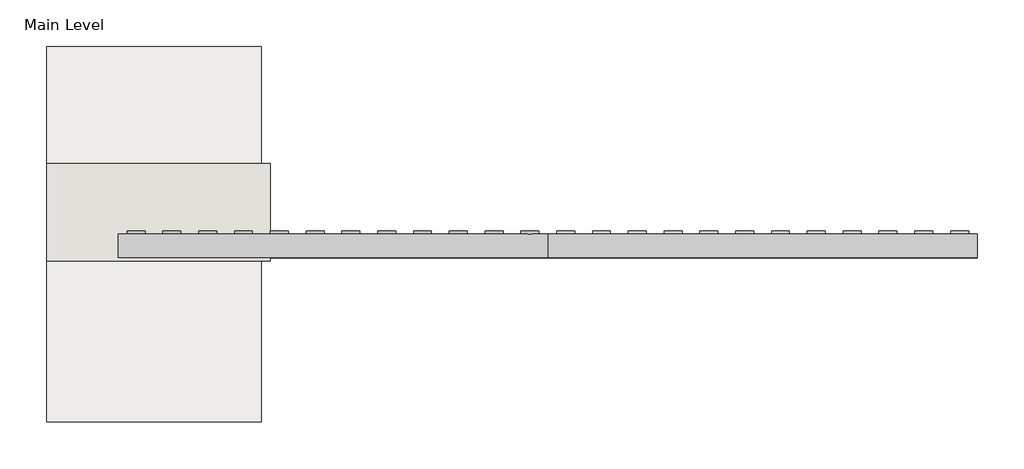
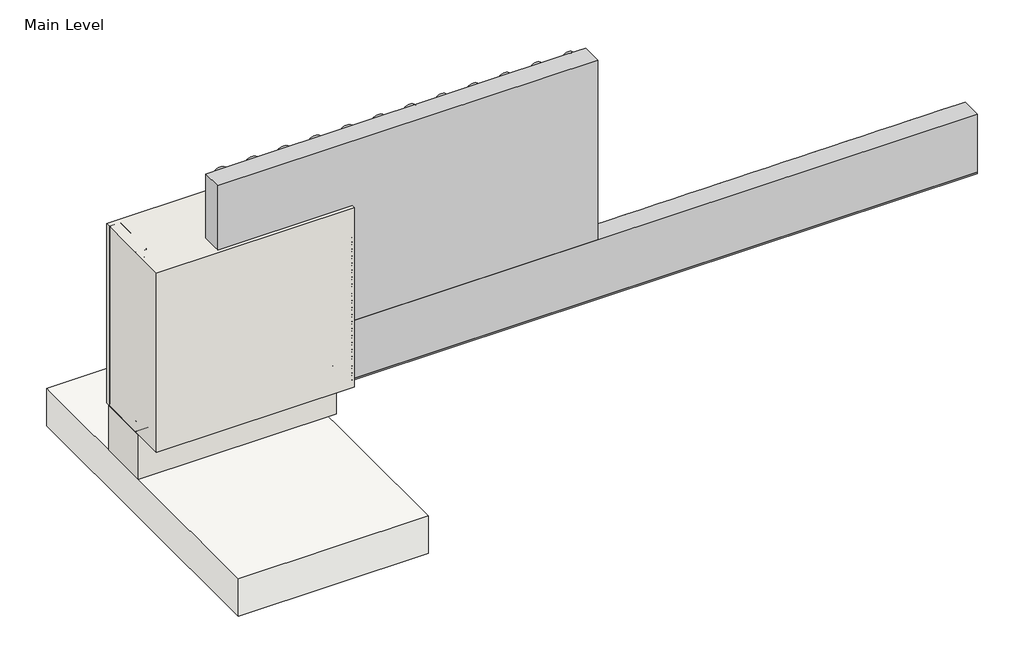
# One storey, incomplete: 18 proxies, 2 walls, 1 slab.
"""IFC4 building model written with IfcOpenShell, lengths in millimetres."""

from ifc_helpers import new_model, si_unit, frame, origin, origin_with_axes, place, context, project, spatial, polyline, outline, extrude, transform, mapped, element, save
from components import generic_models_31547c53, generic_models_0bbfdc8f, generic_models_1e1ad44f, generic_models_7dd17a53, generic_models_441de798, generic_models_9d0e7a2a, generic_models_a6b5edb7, generic_models_03ec6e0e, proxy_50213ae0, proxy_cc65e3d2, wood_blocking_45ac4bf3

model = new_model("IFC4")

# Units and contexts
model_context = context("Model", 3, world=origin())
ifc_project = project(units=[si_unit("LENGTHUNIT", "METRE", prefix="MILLI")], contexts=[model_context])

# Site, building, storey
site = spatial("IfcSite", under=ifc_project)
building = spatial("IfcBuilding", under=site)
storey = spatial("IfcBuildingStorey", under=building, Name="Main Level", Elevation=0.0)

# Proxies
placement = place(None, origin())
generic_models_shape = generic_models_31547c53(model_context)
element("IfcBuildingElementProxy", 1, Name="Durabond Generic Model Sealant Vent : Durabond Generic Model Sealant Vent", ObjectType="Durabond Generic Model Sealant Vent : Durabond Generic Model Sealant Vent", at=placement, inside=storey, context=model_context, shape_type="MappedRepresentation", body=[
    mapped(generic_models_shape, transform((26865.4101773, 546.8432813, 8.5594788), x_axis=(1.0, 0.0, 0.0), y_axis=(0.0, 0.08715574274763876, -0.9961946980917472), z_axis=(0.0, 0.9961946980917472, 0.08715574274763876))),
])
generic_models_2_shape = generic_models_0bbfdc8f(model_context)
generic_models_3_shape = generic_models_1e1ad44f(model_context)
generic_models_4_shape = generic_models_7dd17a53(model_context)
generic_models_5_shape = generic_models_441de798(model_context)
element("IfcBuildingElementProxy", 2, Name="CRAi Generic Model Mesh Piece Face Based : CRAi Generic Model Mesh Piece Face Based", ObjectType="CRAi Generic Model Mesh Piece Face Based : CRAi Generic Model Mesh Piece Face Based", at=placement, inside=storey, context=model_context, shape_type="MappedRepresentation", body=[
    mapped(generic_models_2_shape, transform((26933.6726773, 541.9066297, 261.6963215), x_axis=(-1.0, 0.0, 0.0), y_axis=(0.0, 0.0, -1.0), z_axis=(0.0, -1.0, 0.0))),
    mapped(generic_models_3_shape, transform((26933.6726773, 541.9066297, 261.6963215), x_axis=(-1.0, 0.0, 0.0), y_axis=(0.0, 0.0, -1.0), z_axis=(0.0, -1.0, 0.0))),
    mapped(generic_models_4_shape, transform((26933.6726773, 541.9066297, 261.6963215), x_axis=(-1.0, 0.0, 0.0), y_axis=(0.0, 0.0, -1.0), z_axis=(0.0, -1.0, 0.0))),
    mapped(generic_models_5_shape, transform((26933.6726773, 541.9066297, 261.6963215), x_axis=(-1.0, 0.0, 0.0), y_axis=(0.0, 0.0, -1.0), z_axis=(0.0, -1.0, 0.0))),
])
generic_models_6_shape = generic_models_9d0e7a2a(model_context)
element("IfcBuildingElementProxy", 3, Name="CRAi Generic Model Metal Stud Array : CRAi Generic Model Metal Stud Array", ObjectType="CRAi Generic Model Metal Stud Array : CRAi Generic Model Metal Stud Array", at=placement, inside=storey, context=model_context, shape_type="MappedRepresentation", body=[
    mapped(generic_models_6_shape, transform((26666.9726773, 726.0566297, 6.35), x_axis=(-1.0, 0.0, 0.0), y_axis=(0.0, -1.0, 0.0), z_axis=(0.0, 0.0, 1.0))),
])
generic_models_7_shape = generic_models_a6b5edb7(model_context)
element("IfcBuildingElementProxy", 4, Name="Durabond Generic Model Insulation Adhesive Flat : Durabond Generic Model Insulation Adhesive Flat", ObjectType="Durabond Generic Model Insulation Adhesive Flat : Durabond Generic Model Insulation Adhesive Flat", at=placement, inside=storey, context=model_context, shape_type="MappedRepresentation", body=[
    mapped(generic_models_7_shape, transform((26717.7726773, 627.6316297, 88.9), x_axis=(1.0, 0.0, 0.0), y_axis=(0.0, 1.0, 0.0), z_axis=(0.0, 0.0, 1.0))),
])
element("IfcBuildingElementProxy", 5, Name="Durabond Generic Model Insulation Adhesive Flat : Durabond Generic Model Insulation Adhesive Flat", ObjectType="Durabond Generic Model Insulation Adhesive Flat : Durabond Generic Model Insulation Adhesive Flat", at=placement, inside=storey, context=model_context, shape_type="MappedRepresentation", body=[
    mapped(generic_models_7_shape, transform((26819.3726773, 627.6316297, 88.9), x_axis=(1.0, 0.0, 0.0), y_axis=(0.0, 1.0, 0.0), z_axis=(0.0, 0.0, 1.0))),
])
element("IfcBuildingElementProxy", 6, Name="Durabond Generic Model Insulation Adhesive Flat : Durabond Generic Model Insulation Adhesive Flat", ObjectType="Durabond Generic Model Insulation Adhesive Flat : Durabond Generic Model Insulation Adhesive Flat", at=placement, inside=storey, context=model_context, shape_type="MappedRepresentation", body=[
    mapped(generic_models_7_shape, transform((26920.9726773, 627.6316297, 88.9), x_axis=(1.0, 0.0, 0.0), y_axis=(0.0, 1.0, 0.0), z_axis=(0.0, 0.0, 1.0))),
])
element("IfcBuildingElementProxy", 7, Name="Durabond Generic Model Insulation Adhesive Flat : Durabond Generic Model Insulation Adhesive Flat", ObjectType="Durabond Generic Model Insulation Adhesive Flat : Durabond Generic Model Insulation Adhesive Flat", at=placement, inside=storey, context=model_context, shape_type="MappedRepresentation", body=[
    mapped(generic_models_7_shape, transform((27022.5726773, 627.6316297, 88.9), x_axis=(1.0, 0.0, 0.0), y_axis=(0.0, 1.0, 0.0), z_axis=(0.0, 0.0, 1.0))),
])
generic_models_8_shape = generic_models_03ec6e0e(model_context)
element("IfcBuildingElementProxy", 8, Name="CRAi Generic Model Drywall Screw : CRAi Generic Model Drywall Screw", ObjectType="CRAi Generic Model Drywall Screw : CRAi Generic Model Drywall Screw", at=placement, inside=storey, context=model_context, shape_type="MappedRepresentation", body=[
    mapped(generic_models_8_shape, transform((26482.8226773, 633.9816297, 25.4), x_axis=(1.0, 0.0, 0.0), y_axis=(0.0, 0.0, 1.0), z_axis=(0.0, -1.0, 0.0))),
])
element("IfcBuildingElementProxy", 9, Name="CRAi Generic Model Drywall Screw : CRAi Generic Model Drywall Screw", ObjectType="CRAi Generic Model Drywall Screw : CRAi Generic Model Drywall Screw", at=placement, inside=storey, context=model_context, shape_type="MappedRepresentation", body=[
    mapped(generic_models_8_shape, transform((26482.8226773, 633.9816297, 215.9), x_axis=(1.0, 0.0, 0.0), y_axis=(0.0, 0.0, 1.0), z_axis=(0.0, -1.0, 0.0))),
])
element("IfcBuildingElementProxy", 10, Name="CRAi Generic Model Drywall Screw : CRAi Generic Model Drywall Screw", ObjectType="CRAi Generic Model Drywall Screw : CRAi Generic Model Drywall Screw", at=placement, inside=storey, context=model_context, shape_type="MappedRepresentation", body=[
    mapped(generic_models_8_shape, transform((26482.8226773, 633.9816297, 406.4), x_axis=(1.0, 0.0, 0.0), y_axis=(0.0, 0.0, 1.0), z_axis=(0.0, -1.0, 0.0))),
])
element("IfcBuildingElementProxy", 11, Name="CRAi Generic Model Drywall Screw : CRAi Generic Model Drywall Screw", ObjectType="CRAi Generic Model Drywall Screw : CRAi Generic Model Drywall Screw", at=placement, inside=storey, context=model_context, shape_type="MappedRepresentation", body=[
    mapped(generic_models_8_shape, transform((26482.8226773, 633.9816297, 596.9), x_axis=(1.0, 0.0, 0.0), y_axis=(0.0, 0.0, 1.0), z_axis=(0.0, -1.0, 0.0))),
])
element("IfcBuildingElementProxy", 12, Name="CRAi Generic Model Drywall Screw : CRAi Generic Model Drywall Screw", ObjectType="CRAi Generic Model Drywall Screw : CRAi Generic Model Drywall Screw", at=placement, inside=storey, context=model_context, shape_type="MappedRepresentation", body=[
    mapped(generic_models_8_shape, transform((26851.1226773, 633.9816297, 25.4), x_axis=(1.0, 0.0, 0.0), y_axis=(0.0, 0.0, 1.0), z_axis=(0.0, -1.0, 0.0))),
])
element("IfcBuildingElementProxy", 13, Name="CRAi Generic Model Drywall Screw : CRAi Generic Model Drywall Screw", ObjectType="CRAi Generic Model Drywall Screw : CRAi Generic Model Drywall Screw", at=placement, inside=storey, context=model_context, shape_type="MappedRepresentation", body=[
    mapped(generic_models_8_shape, transform((26851.1226773, 633.9816297, 215.9), x_axis=(1.0, 0.0, 0.0), y_axis=(0.0, 0.0, 1.0), z_axis=(0.0, -1.0, 0.0))),
])
element("IfcBuildingElementProxy", 14, Name="CRAi Generic Model Drywall Screw : CRAi Generic Model Drywall Screw", ObjectType="CRAi Generic Model Drywall Screw : CRAi Generic Model Drywall Screw", at=placement, inside=storey, context=model_context, shape_type="MappedRepresentation", body=[
    mapped(generic_models_8_shape, transform((26851.1226773, 633.9816297, 406.4), x_axis=(1.0, 0.0, 0.0), y_axis=(0.0, 0.0, 1.0), z_axis=(0.0, -1.0, 0.0))),
])
element("IfcBuildingElementProxy", 15, Name="CRAi Generic Model Drywall Screw : CRAi Generic Model Drywall Screw", ObjectType="CRAi Generic Model Drywall Screw : CRAi Generic Model Drywall Screw", at=placement, inside=storey, context=model_context, shape_type="MappedRepresentation", body=[
    mapped(generic_models_8_shape, transform((26851.1226773, 633.9816297, 596.9), x_axis=(1.0, 0.0, 0.0), y_axis=(0.0, 0.0, 1.0), z_axis=(0.0, -1.0, 0.0))),
])
proxy_shape = proxy_50213ae0(model_context)
element("IfcBuildingElementProxy", 16, Name="Durabond Generic Model Quantum Select 5-0 Insulation Board : 3\"", ObjectType="Durabond Generic Model Quantum Select 5-0 Insulation Board : 3\"", at=placement, inside=storey, context=model_context, shape_type="MappedRepresentation", body=[
    mapped(proxy_shape, transform((27276.5726773, 624.4566297, 523.392643), x_axis=(1.0, 0.0, 0.0), y_axis=(0.0, 0.0, 1.0), z_axis=(0.0, -1.0, 0.0))),
])
proxy_2_shape = proxy_cc65e3d2(model_context)
element("IfcBuildingElementProxy", 17, Name="Durabond Generic Model Quantum Select 5-0 Vent Board : 3\"", ObjectType="Durabond Generic Model Quantum Select 5-0 Vent Board : 3\"", at=placement, inside=storey, context=model_context, shape_type="MappedRepresentation", body=[
    mapped(proxy_2_shape, transform((27886.1726773, 624.4566297, 116.992643), x_axis=(1.0, 0.0, 0.0), y_axis=(0.0, 0.0, 1.0), z_axis=(0.0, -1.0, 0.0))),
])
wood_blocking_shape = wood_blocking_45ac4bf3(model_context)
element("IfcBuildingElementProxy", 18, Name="CRAi Generic Model Line Based Metal Framing Track : Wood Blocking", ObjectType="CRAi Generic Model Line Based Metal Framing Track : Wood Blocking", at=placement, inside=storey, context=model_context, shape_type="MappedRepresentation", body=[
    mapped(wood_blocking_shape, transform((26463.7726773, 649.8566297, 0.0), x_axis=(1.0, 0.0, 0.0), y_axis=(0.0, 1.0, 0.0), z_axis=(0.0, 0.0, 1.0))),
])

# Slab
element("IfcSlab", 19, ObjectType="CRAi Concrete Floor - 5\"", at=placement, inside=storey, context=model_context, shape_type="SweptSolid", body=[
    extrude(outline(polyline([(27073.3726773, 81.5316297), (26463.7726773, 81.5316297), (26463.7726773, 1148.3316297), (27073.3726773, 1148.3316297), (27073.3726773, 81.5316297)])), frame((0.0, 0.0, -279.4), z_axis=(0.0, 0.0, 1.0), x_axis=(1.0, 0.0, 0.0)), (0.0, 0.0, 1.0), 127.0),
])

# Walls
element("IfcWall", 20, ObjectType="189mm (7.5”) EIFS Field Applied on Mtl. Stud Layer - 50mm Grooved Insulation Board Metal Stud Wall", at=placement, inside=storey, context=model_context, shape_type="SweptSolid", body=[
    extrude(outline(polyline([(27098.7726773, 538.7316297), (26463.7726773, 538.7316297), (26463.7726773, 814.9566297), (27098.7726773, 814.9566297), (27098.7726773, 538.7316297)])), origin_with_axes(), (0.0, 0.0, 1.0), 609.6),
])
element("IfcWall", 21, ObjectType="Durabond 6\" Concrete Wall", at=placement, inside=storey, context=model_context, shape_type="SweptSolid", body=[
    extrude(outline(polyline([(27098.7726773, 637.1566297), (26463.7726773, 637.1566297), (26463.7726773, 802.2566297), (27098.7726773, 802.2566297), (27098.7726773, 637.1566297)])), frame((0.0, 0.0, -152.4), z_axis=(0.0, 0.0, 1.0), x_axis=(1.0, 0.0, 0.0)), (0.0, 0.0, 1.0), 152.4),
])

save(model, "model.ifc")
